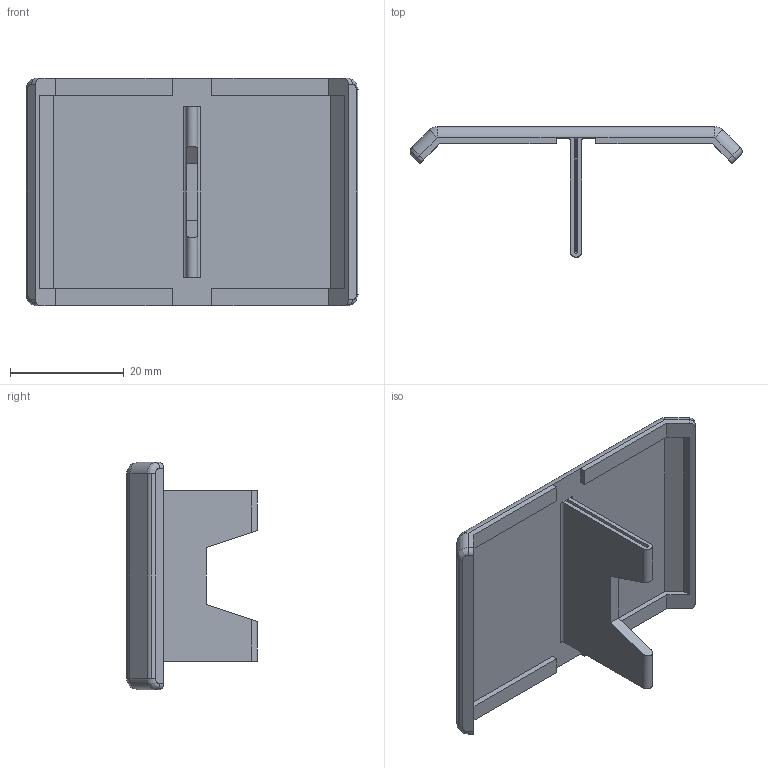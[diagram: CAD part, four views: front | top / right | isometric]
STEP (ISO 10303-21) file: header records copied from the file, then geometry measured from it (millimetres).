
FILE_DESCRIPTION (( 'STEP AP214' ), '1' );
FILE_NAME ('1.1036 Päätysuoja kulmalle 45.STEP', '2025-09-03T09:05:37', ( '' ), ( '' ), 'SwSTEP 2.0', 'SolidWorks 2025', '' );
FILE_SCHEMA (( 'AUTOMOTIVE_DESIGN' ));
Length unit declared in the file: millimetre
Products named in the file (1): 1.1036 Päätysuoja kulmalle 45
Bounding box: 58.41 x 23 x 40 mm (x, y, z)
Volume: 6171.6 mm3; surface area: 6701.4 mm2
Topology: 1 solids, 1 shells, 195 faces, 512 edges, 332 vertices
Faces by surface type: plane 132, bspline 41, cylinder 19, cone 3
Entity records: 7514 total; most frequent: CARTESIAN_POINT 2928, ORIENTED_EDGE 1024, DIRECTION 792, EDGE_CURVE 512, LINE 398, VECTOR 398, VERTEX_POINT 332, EDGE_LOOP 208
